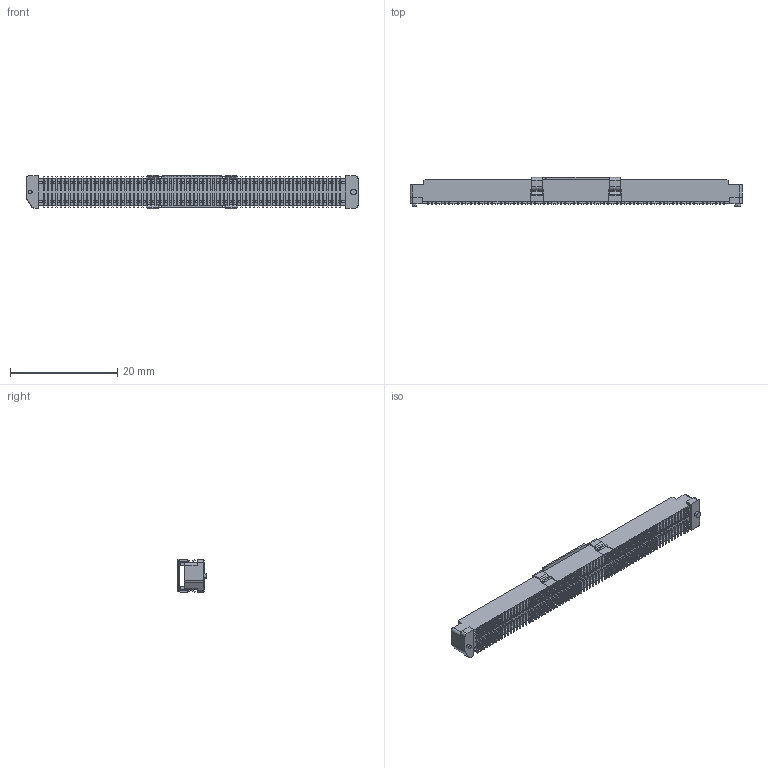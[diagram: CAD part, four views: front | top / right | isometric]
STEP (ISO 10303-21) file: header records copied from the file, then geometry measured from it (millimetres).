
FILE_DESCRIPTION (( 'STEP AP214' ), '1' );
FILE_NAME ('2381-140C00DP1T.STEP', '2024-01-27T10:56:32', ( '' ), ( '' ), 'SwSTEP 2.0', 'SolidWorks 2011', '' );
FILE_SCHEMA (( 'AUTOMOTIVE_DESIGN' ));
Length unit declared in the file: millimetre
Products named in the file (1): 2381-140C00DP1T
Bounding box: 61.8 x 5.4 x 6.19 mm (x, y, z)
Volume: 712.2 mm3; surface area: 2656.2 mm2
Topology: 2 solids, 2 shells, 4818 faces, 13283 edges, 8750 vertices
Faces by surface type: plane 4333, cylinder 477, cone 8
Entity records: 200516 total; most frequent: CARTESIAN_POINT 26858, ORIENTED_EDGE 26566, DIRECTION 23877, EDGE_CURVE 13283, VECTOR 12315, LINE 12315, VERTEX_POINT 8750, AXIS2_PLACEMENT_3D 5781
